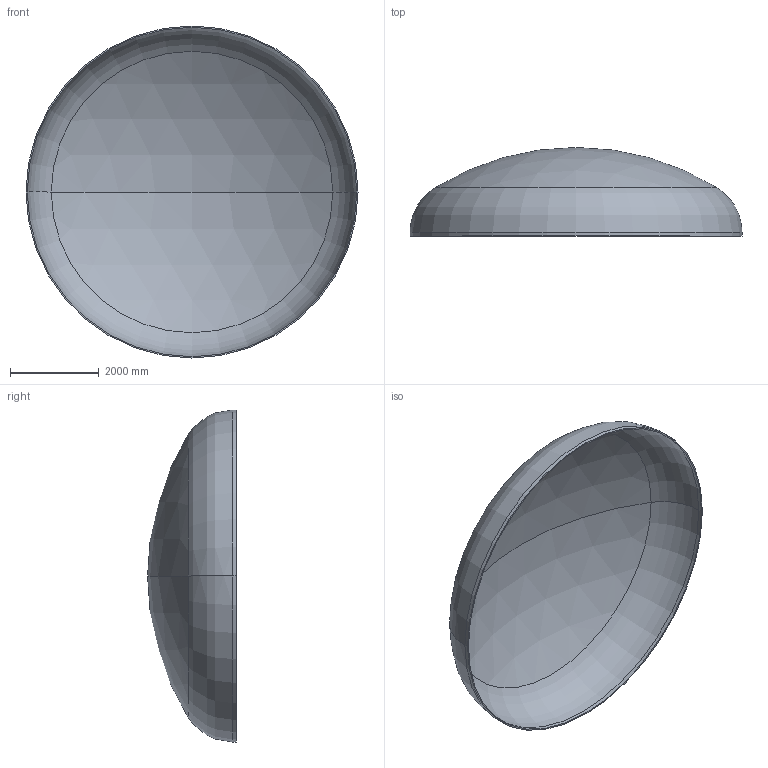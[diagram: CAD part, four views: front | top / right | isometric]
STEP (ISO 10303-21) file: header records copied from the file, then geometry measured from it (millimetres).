
FILE_DESCRIPTION (( 'STEP AP203' ), '1' );
FILE_NAME ('DIN 28013 Korbbogenform_-_Boden DIN 28013 - 7500 x 85 - I - s=28.step', '2016-07-04T10:52:45', ( '' ), ( '' ), 'SwSTEP 2.0', 'SolidWorks 2013', '' );
FILE_SCHEMA (( 'CONFIG_CONTROL_DESIGN' ));
Length unit declared in the file: millimetre
Products named in the file (1): DIN 28013 Korbbogenform_-_Boden DIN 28013 - 7500 x 85 - I - s=28
Bounding box: 7500 x 2003.92 x 7500 mm (x, y, z)
Volume: 1760758716.2 mm3; surface area: 126427342.5 mm2
Topology: 1 solids, 1 shells, 13 faces, 24 edges, 14 vertices
Faces by surface type: torus 4, cylinder 4, sphere 4, plane 1
Entity records: 407 total; most frequent: DIRECTION 72, CARTESIAN_POINT 52, ORIENTED_EDGE 48, AXIS2_PLACEMENT_3D 34, EDGE_CURVE 24, CIRCLE 20, EDGE_LOOP 14, VERTEX_POINT 14
